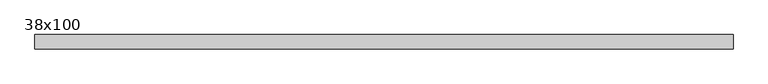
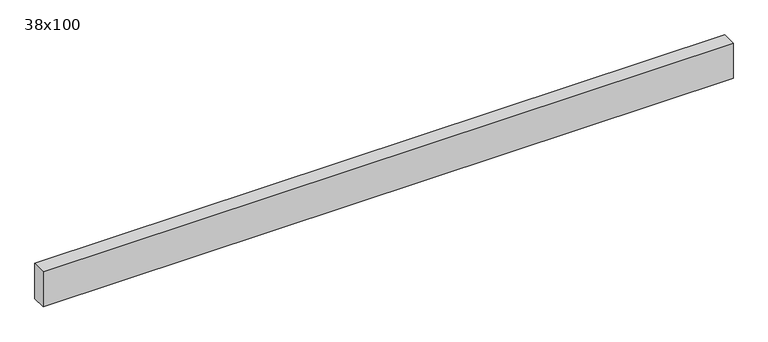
"""IFC4 building model written with IfcOpenShell, lengths in millimetres: beam geometry, Poutre - Bois de construction de dimensions courantes : 38x100."""

import ifcopenshell
import ifcopenshell.guid

model = None  # the IFC model being written
_history = None  # IfcOwnerHistory: only IFC2X3 demands one
_inside = {}  # id of a spatial element -> (the spatial element, [elements in it])
_under = {}  # id of a project, library or spatial element -> (it, [spatial elements below it])
_declared = {}  # id of a project -> (the project, [libraries it declares])
_typed = {}  # id of a type object -> (the type object, [elements of that type])
_made_of = {}  # id of a material, layer set ... -> (it, [elements and type objects made of it])


def new_model(schema):
    """Start an empty IFC model of exactly this schema.

    Asked for "IFC4X3", IfcOpenShell would pick the latest addendum, in which some entities
    have other attributes; the version numbers below select the first issue.
    IFC2X3 requires an IfcOwnerHistory on every rooted entity: one is made here for all.
    """
    global model, _history
    if schema == "IFC4X3":
        model = ifcopenshell.file(schema_version=(4, 3, 0, 0))
    else:
        model = ifcopenshell.file(schema=schema)
    _inside.clear()
    _under.clear()
    _declared.clear()
    _typed.clear()
    _made_of.clear()
    _history = None
    if model.schema == "IFC2X3":
        org = make("IfcOrganization", Name="unknown")
        user = make(
            "IfcPersonAndOrganization",
            ThePerson=make("IfcPerson", FamilyName="unknown"),
            TheOrganization=org,
        )
        app = make(
            "IfcApplication",
            ApplicationDeveloper=org,
            Version="unknown",
            ApplicationFullName="unknown",
            ApplicationIdentifier="unknown",
        )
        _history = make(
            "IfcOwnerHistory",
            OwningUser=user,
            OwningApplication=app,
            ChangeAction="ADDED",
            CreationDate=0,
        )
    return model


def make(cls, **values):
    """One entity of the class cls with the attributes given. An attribute that is None is left unset."""
    return model.create_entity(
        cls, **{name: value for name, value in values.items() if value is not None}
    )


def rooted(cls, **values):
    """An entity with a GlobalId (a new one), such as an element, a storey or a relation."""
    return make(cls, GlobalId=ifcopenshell.guid.new(), OwnerHistory=_history, **values)


def si_unit(unit_type, name, prefix=None):
    """IfcSIUnit, for example si_unit("LENGTHUNIT", "METRE", prefix="MILLI")."""
    return make("IfcSIUnit", UnitType=unit_type, Prefix=prefix, Name=name)


def assignment(units):
    """IfcUnitAssignment: the units of a project."""
    return None if units is None else make("IfcUnitAssignment", Units=units)


def point(xyz):
    """IfcCartesianPoint."""
    return None if xyz is None else make("IfcCartesianPoint", Coordinates=xyz)


def direction(xyz):
    """IfcDirection."""
    return None if xyz is None else make("IfcDirection", DirectionRatios=xyz)


def frame(location, z_axis=None, x_axis=None):
    """IfcAxis2Placement3D, a coordinate frame: its origin and axes. An axis left out is left unset."""
    return make(
        "IfcAxis2Placement3D",
        Location=point(location),
        Axis=direction(z_axis),
        RefDirection=direction(x_axis),
    )


def origin():
    """The frame at (0, 0, 0) with its axes left unset."""
    return frame((0.0, 0.0, 0.0))


def place(relative_to, where):
    """IfcLocalPlacement: puts the frame where relative to a parent placement (None: the world)."""
    return make(
        "IfcLocalPlacement", PlacementRelTo=relative_to, RelativePlacement=where
    )


def context(
    kind, dimensions, precision=None, world=None, true_north=None, identifier=None
):
    """IfcGeometricRepresentationContext, for example the 3D "Model" context."""
    return make(
        "IfcGeometricRepresentationContext",
        ContextIdentifier=identifier,
        ContextType=kind,
        CoordinateSpaceDimension=dimensions,
        Precision=precision,
        WorldCoordinateSystem=world,
        TrueNorth=true_north,
    )


def project(units=None, contexts=None):
    """IfcProject with its units and contexts."""
    return rooted(
        "IfcProject",
        Name="project",
        RepresentationContexts=contexts,
        UnitsInContext=assignment(units),
    )


def spatial(cls, under=None, at=None, **own):
    """A site, building, storey or space (cls), placed at a placement, below another one or the project."""
    s = rooted(cls, ObjectPlacement=at, **own)
    if under is not None:
        _under.setdefault(under.id(), (under, []))[1].append(s)
    return s


def polyline(points):
    """IfcPolyline through the points."""
    return make("IfcPolyline", Points=[point(p) for p in points])


def outline(outer, holes=None, kind="AREA"):
    """IfcArbitraryClosedProfileDef: a profile drawn as a closed curve; with holes, ...WithVoids."""
    if holes is None:
        return make("IfcArbitraryClosedProfileDef", ProfileType=kind, OuterCurve=outer)
    return make(
        "IfcArbitraryProfileDefWithVoids",
        ProfileType=kind,
        OuterCurve=outer,
        InnerCurves=holes,
    )


def extrude(swept, where, along, depth):
    """IfcExtrudedAreaSolid: the profile swept, set in the frame where, extruded along a direction by depth."""
    return make(
        "IfcExtrudedAreaSolid",
        SweptArea=swept,
        Position=where,
        ExtrudedDirection=direction(along),
        Depth=depth,
    )


def shape(context_of_items, identifier, shape_type, items):
    """IfcShapeRepresentation: the items that make up one representation, for example the "Body"."""
    return make(
        "IfcShapeRepresentation",
        ContextOfItems=context_of_items,
        RepresentationIdentifier=identifier,
        RepresentationType=shape_type,
        Items=items,
    )


def source(mapping_origin, context_of_items, identifier, shape_type, items):
    """IfcRepresentationMap: a shape defined once, which mapped items show again and again."""
    return make(
        "IfcRepresentationMap",
        MappingOrigin=mapping_origin,
        MappedRepresentation=shape(context_of_items, identifier, shape_type, items),
    )


def transform(
    local_origin,
    x_axis=None,
    y_axis=None,
    z_axis=None,
    scale=None,
    scale2=None,
    scale3=None,
    uniform=True,
):
    """IfcCartesianTransformationOperator3D, or its non-uniform kind. x_axis, y_axis, z_axis: its Axis1, 2, 3."""
    if uniform:
        return make(
            "IfcCartesianTransformationOperator3D",
            Axis1=direction(x_axis),
            Axis2=direction(y_axis),
            LocalOrigin=point(local_origin),
            Scale=scale,
            Axis3=direction(z_axis),
        )
    return make(
        "IfcCartesianTransformationOperator3DnonUniform",
        Axis1=direction(x_axis),
        Axis2=direction(y_axis),
        LocalOrigin=point(local_origin),
        Scale=scale,
        Axis3=direction(z_axis),
        Scale2=scale2,
        Scale3=scale3,
    )


def mapped(mapping_source, mapping_target):
    """IfcMappedItem: shows the shape of a source again, moved by a transform."""
    return make(
        "IfcMappedItem", MappingSource=mapping_source, MappingTarget=mapping_target
    )


def made_of(thing, what):
    """Note that an element or type object is made of a material, layer set ...; save() writes the relation."""
    if what is not None:
        _made_of.setdefault(what.id(), (what, []))[1].append(thing)
    return thing


def element(
    cls,
    number,
    at=None,
    inside=None,
    cuts=None,
    type_object=None,
    material=None,
    context=None,
    identifier="Body",
    shape_type=None,
    held_by="IfcProductDefinitionShape",
    body=None,
    shapes=None,
    **own,
):
    """One element of the class cls, such as IfcWall. Its Tag is "e" and its number.

    at: its placement. inside: the storey or other place that contains it. cuts: it is an
    opening in that element (IfcRelVoidsElement). A single representation is given by context,
    identifier, shape_type and body (its items); several are given by shapes. held_by: the class
    of the entity that holds the representations. save() writes the other relations.
    """
    e = rooted(cls, Tag="e%d" % number, ObjectPlacement=at, **own)
    if body is not None:
        shapes = [shape(context, identifier, shape_type, body)]
    if shapes is not None:
        e.Representation = make(held_by, Representations=shapes)
    if inside is not None:
        _inside.setdefault(inside.id(), (inside, []))[1].append(e)
    if cuts is not None:
        rooted(
            "IfcRelVoidsElement", RelatingBuildingElement=cuts, RelatedOpeningElement=e
        )
    if type_object is not None:
        _typed.setdefault(type_object.id(), (type_object, []))[1].append(e)
    return made_of(e, material)


def aggregate(whole, parts):
    """IfcRelAggregates: a whole, such as a stair, and the parts it consists of."""
    return rooted("IfcRelAggregates", RelatingObject=whole, RelatedObjects=parts)


def save(model, path):
    """Write the relations noted so far, then the file.

    IfcRelAggregates (storeys below a building ...), IfcRelContainedInSpatialStructure (elements
    in a storey), IfcRelDefinesByType, IfcRelAssociatesMaterial and IfcRelDeclares: one each for
    every whole, place, type object, material and project.
    """
    for whole, parts in _under.values():
        aggregate(whole, parts)
    for where, things in _inside.values():
        rooted(
            "IfcRelContainedInSpatialStructure",
            RelatedElements=things,
            RelatingStructure=where,
        )
    for kind, things in _typed.values():
        rooted("IfcRelDefinesByType", RelatedObjects=things, RelatingType=kind)
    for what, things in _made_of.values():
        rooted("IfcRelAssociatesMaterial", RelatedObjects=things, RelatingMaterial=what)
    for by, libraries in _declared.values():
        rooted("IfcRelDeclares", RelatingContext=by, RelatedDefinitions=libraries)
    model.write(path)


def beam_38x100_f14adb52(model_context):
    return source(origin(), model_context, "Body", "SweptSolid", [
        extrude(outline(polyline([(924.0, 19.05), (924.0, -19.05), (-924.0, -19.05), (-924.0, 19.05), (924.0, 19.05)])), frame((0.0, 0.0, -50.0), z_axis=(0.0, 0.0, 1.0), x_axis=(1.0, 0.0, 0.0)), (0.0, 0.0, 1.0), 100.0),
    ])


if __name__ == "__main__":
    model = new_model("IFC4")
    model_context = context("Model", 3, world=origin())
    ifc_project = project(units=[si_unit("LENGTHUNIT", "METRE", prefix="MILLI")], contexts=[model_context])
    site = spatial("IfcSite", under=ifc_project)
    building = spatial("IfcBuilding", under=site)
    placement = place(None, origin())
    beam_38x100_shape = beam_38x100_f14adb52(model_context)
    element("IfcBeam", 1, ObjectType="Poutre - Bois de construction de dimensions courantes : 38x100", at=placement, inside=building, context=model_context, shape_type="MappedRepresentation", body=[
        mapped(beam_38x100_shape, transform((0.0, 0.0, 0.0), x_axis=(1.0, 0.0, 0.0), y_axis=(0.0, 1.0, 0.0), z_axis=(0.0, 0.0, 1.0))),
    ])
    save(model, "model.ifc")
